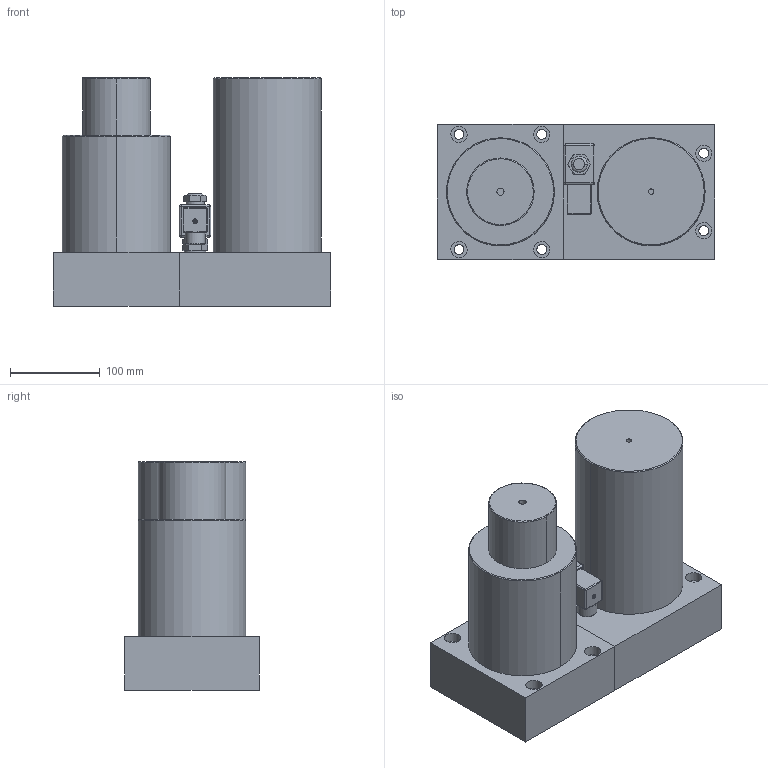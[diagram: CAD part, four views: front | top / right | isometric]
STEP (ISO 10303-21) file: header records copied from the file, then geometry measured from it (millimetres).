
FILE_DESCRIPTION(('CATIA V5 STEP Exchange'),'2;1');
FILE_NAME('W:\LIBRERIA TECAPRES®\DIBUJOS STRACK 2012\TPMC 2015\TPMCA 6500\TPMCA 6500x63.stp','2015-11-04T09:04:25+00:00',('none'),('none'),'CATIA Version 5 Release 17 (IN-10)','CATIA V5 STEP AP203','none');
FILE_SCHEMA(('CONFIG_CONTROL_DESIGN'));
Length unit declared in the file: millimetre
Products named in the file (1): TPMCA 6500x63
Bounding box: 308 x 150 x 254 mm (x, y, z)
Volume: 6771052.5 mm3; surface area: 385050 mm2
Topology: 6 solids, 6 shells, 177 faces, 416 edges, 252 vertices
Faces by surface type: plane 67, cylinder 63, revolution 18, sphere 12, torus 9, cone 6, bspline 2
Entity records: 5411 total; most frequent: CARTESIAN_POINT 1675, ORIENTED_EDGE 804, DIRECTION 597, EDGE_CURVE 402, AXIS2_PLACEMENT_3D 286, VERTEX_POINT 252, EDGE_LOOP 204, ADVANCED_FACE 177
